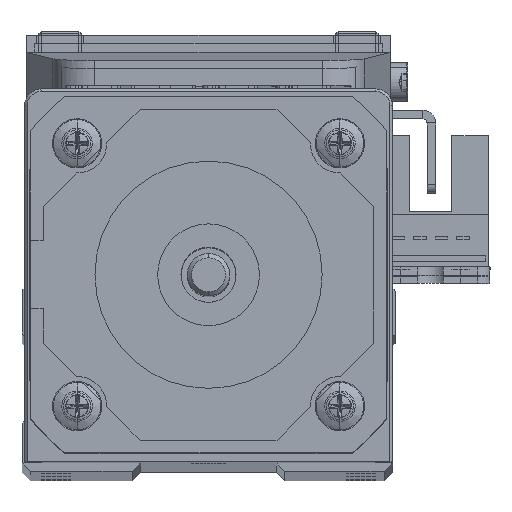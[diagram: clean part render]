
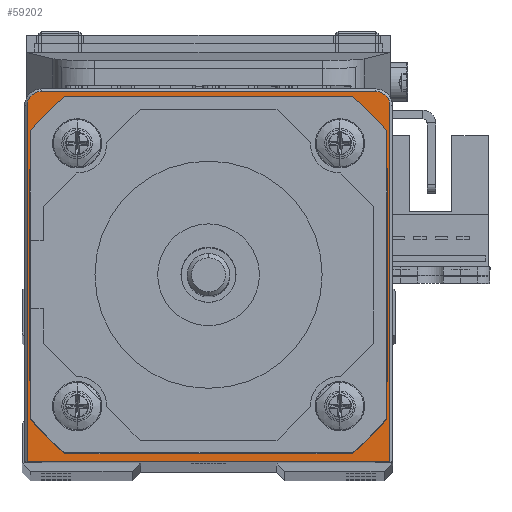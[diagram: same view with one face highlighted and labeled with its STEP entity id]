
A CAD part, top view. The second image highlights one B-rep face of the part: STEP entity #59202.
In plain terms, the highlighted planar face has unit normal (0, 0, 1).
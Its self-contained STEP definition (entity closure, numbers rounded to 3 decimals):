
#143 = LINE ( 'NONE', #23514, #26596 ) ;
#776 = CARTESIAN_POINT ( 'NONE',  ( 0., 0., 26.5 ) ) ;
#1279 = CARTESIAN_POINT ( 'NONE',  ( -19.7, 20., 26.5 ) ) ;
#2058 = EDGE_LOOP ( 'NONE', ( #19710, #10651, #69336, #47499, #11693, #44628 ) ) ;
#3496 = DIRECTION ( 'NONE',  ( 0., 0., 1. ) ) ;
#4948 = EDGE_CURVE ( 'NONE', #64251, #33467, #57427, .T. ) ;
#6438 = DIRECTION ( 'NONE',  ( 1., 0., 0. ) ) ;
#6565 = FACE_OUTER_BOUND ( 'NONE', #2058, .T. ) ;
#9576 = CARTESIAN_POINT ( 'NONE',  ( -19.7, 21.7, 26.5 ) ) ;
#9626 = AXIS2_PLACEMENT_3D ( 'NONE', #35530, #58882, #6438 ) ;
#9740 = VERTEX_POINT ( 'NONE', #65372 ) ;
#10651 = ORIENTED_EDGE ( 'NONE', *, *, #28111, .T. ) ;
#11693 = ORIENTED_EDGE ( 'NONE', *, *, #60751, .T. ) ;
#11944 = LINE ( 'NONE', #35289, #71379 ) ;
#12381 = AXIS2_PLACEMENT_3D ( 'NONE', #1279, #24649, #48024 ) ;
#12534 = VECTOR ( 'NONE', #32919, 1000. ) ;
#15071 = EDGE_CURVE ( 'NONE', #33467, #49029, #62015, .T. ) ;
#16339 = CARTESIAN_POINT ( 'NONE',  ( -19.7, 21.7, 26.5 ) ) ;
#16367 = CIRCLE ( 'NONE', #59135, 10. ) ;
#16478 = DIRECTION ( 'NONE',  ( 0., 0., 1. ) ) ;
#17494 = DIRECTION ( 'NONE',  ( 1., 0., 0. ) ) ;
#17795 = VECTOR ( 'NONE', #17494, 1000. ) ;
#17966 = ORIENTED_EDGE ( 'NONE', *, *, #62747, .F. ) ;
#19710 = ORIENTED_EDGE ( 'NONE', *, *, #41883, .T. ) ;
#23514 = CARTESIAN_POINT ( 'NONE',  ( -21.4, -22., 26.5 ) ) ;
#24159 = DIRECTION ( 'NONE',  ( 0., 0., 1. ) ) ;
#24410 = AXIS2_PLACEMENT_3D ( 'NONE', #55954, #3496, #26869 ) ;
#24649 = DIRECTION ( 'NONE',  ( 0., 0., 1. ) ) ;
#26596 = VECTOR ( 'NONE', #47923, 1000. ) ;
#26869 = DIRECTION ( 'NONE',  ( 1., 0., 0. ) ) ;
#27478 = CARTESIAN_POINT ( 'NONE',  ( -21.4, -22., 26.5 ) ) ;
#28111 = EDGE_CURVE ( 'NONE', #31392, #64251, #11944, .T. ) ;
#29015 = CARTESIAN_POINT ( 'NONE',  ( -21.4, 20., 26.5 ) ) ;
#29891 = FACE_BOUND ( 'NONE', #65549, .T. ) ;
#31006 = VERTEX_POINT ( 'NONE', #59716 ) ;
#31188 = VERTEX_POINT ( 'NONE', #27478 ) ;
#31392 = VERTEX_POINT ( 'NONE', #59213 ) ;
#32919 = DIRECTION ( 'NONE',  ( -1., 0., 0. ) ) ;
#33467 = VERTEX_POINT ( 'NONE', #45700 ) ;
#35289 = CARTESIAN_POINT ( 'NONE',  ( 21.4, 20., 26.5 ) ) ;
#35530 = CARTESIAN_POINT ( 'NONE',  ( 0., 0., 26.5 ) ) ;
#39821 = DIRECTION ( 'NONE',  ( 1., 0., 0. ) ) ;
#41883 = EDGE_CURVE ( 'NONE', #31188, #31392, #46613, .T. ) ;
#42637 = CIRCLE ( 'NONE', #9626, 10. ) ;
#44628 = ORIENTED_EDGE ( 'NONE', *, *, #55485, .T. ) ;
#45401 = CIRCLE ( 'NONE', #12381, 1.7 ) ;
#45700 = CARTESIAN_POINT ( 'NONE',  ( 19.7, 21.7, 26.5 ) ) ;
#46613 = LINE ( 'NONE', #69957, #17795 ) ;
#47499 = ORIENTED_EDGE ( 'NONE', *, *, #15071, .T. ) ;
#47532 = DIRECTION ( 'NONE',  ( 1., 0., 0. ) ) ;
#47923 = DIRECTION ( 'NONE',  ( 0., -1., 0. ) ) ;
#48024 = DIRECTION ( 'NONE',  ( 1., 0., 0. ) ) ;
#49029 = VERTEX_POINT ( 'NONE', #16339 ) ;
#49924 = EDGE_CURVE ( 'NONE', #9740, #31006, #42637, .T. ) ;
#53244 = PLANE ( 'NONE',  #55124 ) ;
#53280 = VERTEX_POINT ( 'NONE', #29015 ) ;
#55124 = AXIS2_PLACEMENT_3D ( 'NONE', #776, #24159, #47532 ) ;
#55485 = EDGE_CURVE ( 'NONE', #53280, #31188, #143, .T. ) ;
#55954 = CARTESIAN_POINT ( 'NONE',  ( 19.7, 20., 26.5 ) ) ;
#57427 = CIRCLE ( 'NONE', #24410, 1.7 ) ;
#58653 = DIRECTION ( 'NONE',  ( 0., 1., 0. ) ) ;
#58882 = DIRECTION ( 'NONE',  ( 0., 0., 1. ) ) ;
#59135 = AXIS2_PLACEMENT_3D ( 'NONE', #68942, #16478, #39821 ) ;
#59202 = ADVANCED_FACE ( 'NONE', ( #6565, #29891 ), #53244, .T. ) ;
#59213 = CARTESIAN_POINT ( 'NONE',  ( 21.4, -22., 26.5 ) ) ;
#59716 = CARTESIAN_POINT ( 'NONE',  ( 10., 0., 26.5 ) ) ;
#60751 = EDGE_CURVE ( 'NONE', #49029, #53280, #45401, .T. ) ;
#62015 = LINE ( 'NONE', #9576, #12534 ) ;
#62747 = EDGE_CURVE ( 'NONE', #31006, #9740, #16367, .T. ) ;
#64251 = VERTEX_POINT ( 'NONE', #69210 ) ;
#65372 = CARTESIAN_POINT ( 'NONE',  ( -10., 0., 26.5 ) ) ;
#65549 = EDGE_LOOP ( 'NONE', ( #69389, #17966 ) ) ;
#68942 = CARTESIAN_POINT ( 'NONE',  ( 0., 0., 26.5 ) ) ;
#69210 = CARTESIAN_POINT ( 'NONE',  ( 21.4, 20., 26.5 ) ) ;
#69336 = ORIENTED_EDGE ( 'NONE', *, *, #4948, .T. ) ;
#69389 = ORIENTED_EDGE ( 'NONE', *, *, #49924, .F. ) ;
#69957 = CARTESIAN_POINT ( 'NONE',  ( -21.7, -22., 26.5 ) ) ;
#71379 = VECTOR ( 'NONE', #58653, 1000. ) ;
